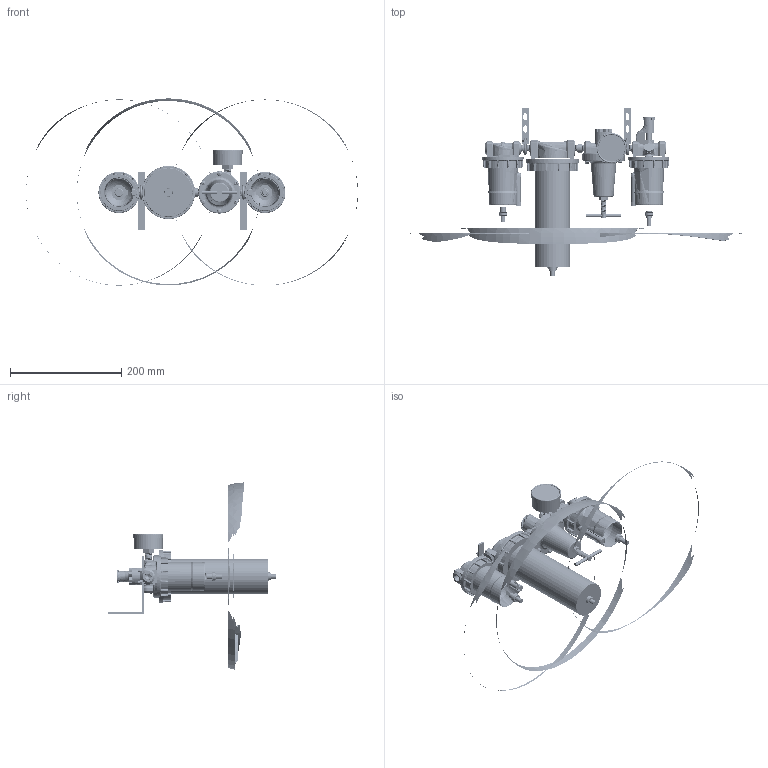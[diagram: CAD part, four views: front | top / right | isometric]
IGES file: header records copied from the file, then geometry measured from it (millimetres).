
Start section: SolidWorks IGES file using analytic representation for surfaces
Global section: file name: D:\Custom\3D繪製\FRL\FSRL系列\A728#W#-02YB#.IGS; native system: SolidWorks 2014; preprocessor: SolidWorks 2014; author: Chieh_Lu; date: 160115.014710; units: millimetre
Bounding box: 598.19 x 304.08 x 337.41 mm (x, y, z)
Surface area: 262256 mm2 (no closed solid volume)
Topology: 0 solids, 0 shells, 2159 faces, 27657 edges, 27620 vertices
Faces by surface type: bspline 1189, revolution 970
